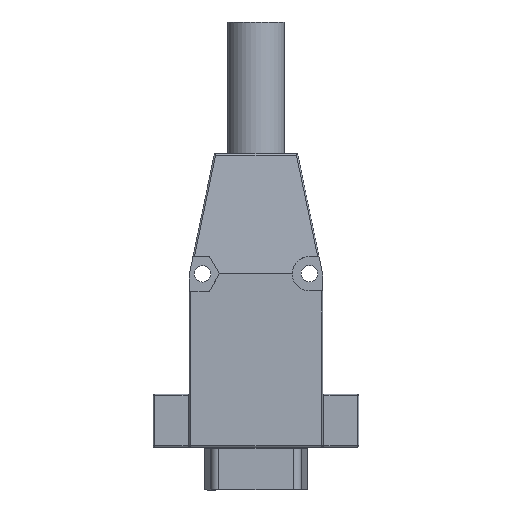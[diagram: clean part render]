
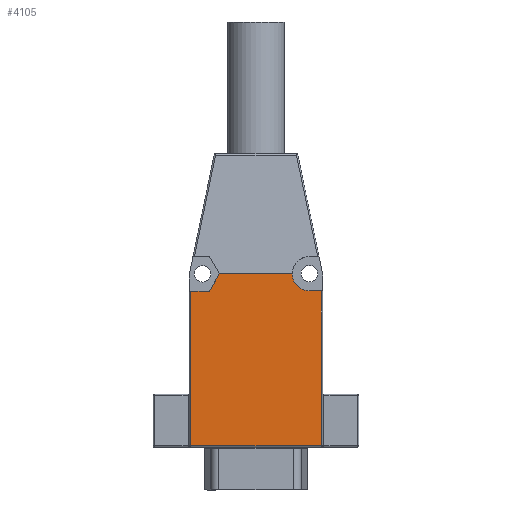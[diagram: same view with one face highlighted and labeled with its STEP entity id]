
A CAD part, front view. The second image highlights one B-rep face of the part: STEP entity #4105.
In plain terms, the highlighted planar face has unit normal (0, -1, 0).
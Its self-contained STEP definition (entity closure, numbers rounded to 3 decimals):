
#95 = ORIENTED_EDGE ( 'NONE', *, *, #3368, .F. ) ;
#136 = FACE_OUTER_BOUND ( 'NONE', #5372, .T. ) ;
#547 = EDGE_CURVE ( 'NONE', #2390, #3842, #4222, .T. ) ;
#706 = VERTEX_POINT ( 'NONE', #2120 ) ;
#710 = CARTESIAN_POINT ( 'NONE',  ( -2.1, -11.55, 32.79 ) ) ;
#717 = VECTOR ( 'NONE', #4966, 1000. ) ;
#733 = LINE ( 'NONE', #1607, #5031 ) ;
#915 = VECTOR ( 'NONE', #5909, 1000. ) ;
#969 = VECTOR ( 'NONE', #3060, 1000. ) ;
#1031 = LINE ( 'NONE', #1330, #717 ) ;
#1218 = VECTOR ( 'NONE', #4133, 1000. ) ;
#1327 = CARTESIAN_POINT ( 'NONE',  ( 2.449, -11.55, 32.79 ) ) ;
#1330 = CARTESIAN_POINT ( 'NONE',  ( -2.1, -11.55, 6.7 ) ) ;
#1350 = CARTESIAN_POINT ( 'NONE',  ( 17.9, -11.55, 30.21 ) ) ;
#1376 = LINE ( 'NONE', #6203, #1218 ) ;
#1589 = ORIENTED_EDGE ( 'NONE', *, *, #3262, .F. ) ;
#1607 = CARTESIAN_POINT ( 'NONE',  ( -1.9, -11.55, 51. ) ) ;
#1699 = VERTEX_POINT ( 'NONE', #4431 ) ;
#1881 = CARTESIAN_POINT ( 'NONE',  ( 17.9, -11.55, 6.7 ) ) ;
#2021 = CARTESIAN_POINT ( 'NONE',  ( 0.93, -11.55, 30.16 ) ) ;
#2120 = CARTESIAN_POINT ( 'NONE',  ( -1.9, -11.55, 6.7 ) ) ;
#2140 = CARTESIAN_POINT ( 'NONE',  ( -2.1, -11.55, 51. ) ) ;
#2188 = CARTESIAN_POINT ( 'NONE',  ( 16.1, -11.55, 32.81 ) ) ;
#2209 = EDGE_CURVE ( 'NONE', #1699, #4324, #5053, .T. ) ;
#2304 = LINE ( 'NONE', #710, #915 ) ;
#2307 = ORIENTED_EDGE ( 'NONE', *, *, #3762, .F. ) ;
#2368 = LINE ( 'NONE', #6492, #2507 ) ;
#2390 = VERTEX_POINT ( 'NONE', #5534 ) ;
#2507 = VECTOR ( 'NONE', #5986, 1000. ) ;
#2510 = LINE ( 'NONE', #2021, #969 ) ;
#2572 = CARTESIAN_POINT ( 'NONE',  ( -2.1, -11.55, 30.16 ) ) ;
#2650 = DIRECTION ( 'NONE',  ( 0., 0., 1. ) ) ;
#2697 = DIRECTION ( 'NONE',  ( 0., 0., -1. ) ) ;
#2736 = EDGE_CURVE ( 'NONE', #5550, #1699, #2304, .T. ) ;
#3060 = DIRECTION ( 'NONE',  ( 0.5, 0., 0.866 ) ) ;
#3172 = ORIENTED_EDGE ( 'NONE', *, *, #3518, .F. ) ;
#3262 = EDGE_CURVE ( 'NONE', #5591, #4344, #1376, .T. ) ;
#3368 = EDGE_CURVE ( 'NONE', #706, #2390, #733, .T. ) ;
#3432 = CARTESIAN_POINT ( 'NONE',  ( 16.1, -11.55, 30.21 ) ) ;
#3518 = EDGE_CURVE ( 'NONE', #4324, #5591, #2368, .T. ) ;
#3631 = DIRECTION ( 'NONE',  ( 1., 0., 0. ) ) ;
#3762 = EDGE_CURVE ( 'NONE', #4344, #706, #1031, .T. ) ;
#3842 = VERTEX_POINT ( 'NONE', #3994 ) ;
#3994 = CARTESIAN_POINT ( 'NONE',  ( 0.93, -11.55, 30.16 ) ) ;
#4049 = VECTOR ( 'NONE', #3631, 1000. ) ;
#4105 = ADVANCED_FACE ( 'NONE', ( #136 ), #4205, .F. ) ;
#4133 = DIRECTION ( 'NONE',  ( 0., 0., -1. ) ) ;
#4205 = PLANE ( 'NONE',  #6058 ) ;
#4222 = LINE ( 'NONE', #2572, #4049 ) ;
#4323 = ORIENTED_EDGE ( 'NONE', *, *, #2209, .F. ) ;
#4324 = VERTEX_POINT ( 'NONE', #3432 ) ;
#4344 = VERTEX_POINT ( 'NONE', #1881 ) ;
#4431 = CARTESIAN_POINT ( 'NONE',  ( 13.5, -11.55, 32.79 ) ) ;
#4724 = DIRECTION ( 'NONE',  ( 0., 0., 1. ) ) ;
#4966 = DIRECTION ( 'NONE',  ( -1., 0., 0. ) ) ;
#5002 = AXIS2_PLACEMENT_3D ( 'NONE', #2188, #5802, #2697 ) ;
#5031 = VECTOR ( 'NONE', #4724, 1000. ) ;
#5053 = CIRCLE ( 'NONE', #5002, 2.6 ) ;
#5056 = EDGE_CURVE ( 'NONE', #3842, #5550, #2510, .T. ) ;
#5372 = EDGE_LOOP ( 'NONE', ( #6434, #95, #2307, #1589, #3172, #4323, #6159, #6120 ) ) ;
#5534 = CARTESIAN_POINT ( 'NONE',  ( -1.9, -11.55, 30.16 ) ) ;
#5550 = VERTEX_POINT ( 'NONE', #1327 ) ;
#5591 = VERTEX_POINT ( 'NONE', #1350 ) ;
#5760 = DIRECTION ( 'NONE',  ( 0., 1., 0. ) ) ;
#5802 = DIRECTION ( 'NONE',  ( 0., -1., 0. ) ) ;
#5909 = DIRECTION ( 'NONE',  ( 1., 0., 0. ) ) ;
#5986 = DIRECTION ( 'NONE',  ( 1., 0., 0. ) ) ;
#6058 = AXIS2_PLACEMENT_3D ( 'NONE', #2140, #5760, #2650 ) ;
#6120 = ORIENTED_EDGE ( 'NONE', *, *, #5056, .F. ) ;
#6159 = ORIENTED_EDGE ( 'NONE', *, *, #2736, .F. ) ;
#6203 = CARTESIAN_POINT ( 'NONE',  ( 17.9, -11.55, 51. ) ) ;
#6434 = ORIENTED_EDGE ( 'NONE', *, *, #547, .F. ) ;
#6492 = CARTESIAN_POINT ( 'NONE',  ( -2.1, -11.55, 30.21 ) ) ;
